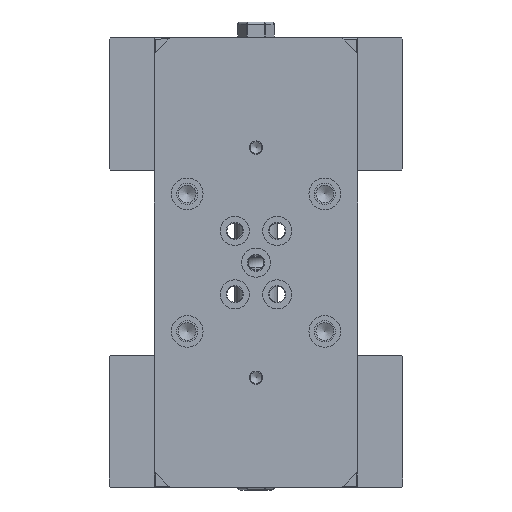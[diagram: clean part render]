
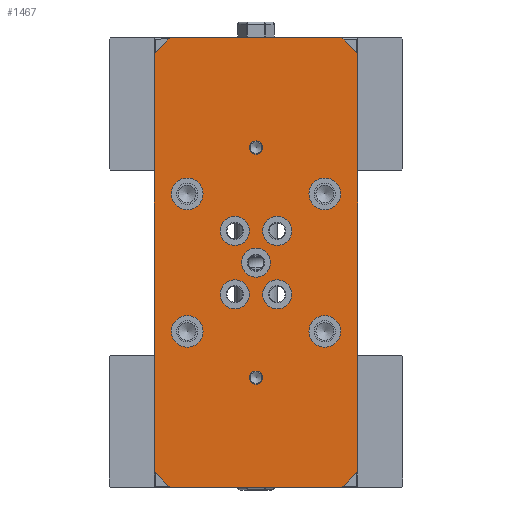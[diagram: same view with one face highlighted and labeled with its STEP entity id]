
A CAD part, front view. The second image highlights one B-rep face of the part: STEP entity #1467.
In plain terms, the highlighted planar face has unit normal (0, -1, 0).
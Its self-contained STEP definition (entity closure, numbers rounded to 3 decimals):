
#1467=ADVANCED_FACE('',(#4625,#4626,#4627,#4628,#4629,#4630,#4631,#4632,
#4633,#4634,#4635,#4636),#1966,.F.);
#1966=PLANE('',#12396);
#2924=LINE('',#21679,#4012);
#2925=LINE('',#21682,#4013);
#2926=LINE('',#21684,#4014);
#2927=LINE('',#21686,#4015);
#2928=LINE('',#21688,#4016);
#2929=LINE('',#21690,#4017);
#2930=LINE('',#21692,#4018);
#2931=LINE('',#21694,#4019);
#4012=VECTOR('',#14925,1.);
#4013=VECTOR('',#14926,1.);
#4014=VECTOR('',#14927,1.);
#4015=VECTOR('',#14928,1.);
#4016=VECTOR('',#14929,1.);
#4017=VECTOR('',#14930,1.);
#4018=VECTOR('',#14931,1.);
#4019=VECTOR('',#14932,1.);
#4625=FACE_BOUND('',#5404,.T.);
#4626=FACE_BOUND('',#5405,.T.);
#4627=FACE_BOUND('',#5406,.T.);
#4628=FACE_BOUND('',#5407,.T.);
#4629=FACE_BOUND('',#5408,.T.);
#4630=FACE_BOUND('',#5409,.T.);
#4631=FACE_BOUND('',#5410,.T.);
#4632=FACE_BOUND('',#5411,.T.);
#4633=FACE_BOUND('',#5412,.T.);
#4634=FACE_BOUND('',#5413,.T.);
#4635=FACE_BOUND('',#5414,.T.);
#4636=FACE_BOUND('',#5415,.T.);
#5404=EDGE_LOOP('',(#7828));
#5405=EDGE_LOOP('',(#7829));
#5406=EDGE_LOOP('',(#7830));
#5407=EDGE_LOOP('',(#7831));
#5408=EDGE_LOOP('',(#7832,#7833,#7834,#7835,#7836,#7837,#7838,#7839));
#5409=EDGE_LOOP('',(#7840));
#5410=EDGE_LOOP('',(#7841));
#5411=EDGE_LOOP('',(#7842));
#5412=EDGE_LOOP('',(#7843));
#5413=EDGE_LOOP('',(#7844));
#5414=EDGE_LOOP('',(#7845));
#5415=EDGE_LOOP('',(#7846));
#7828=ORIENTED_EDGE('',*,*,#10876,.F.);
#7829=ORIENTED_EDGE('',*,*,#10877,.T.);
#7830=ORIENTED_EDGE('',*,*,#10878,.F.);
#7831=ORIENTED_EDGE('',*,*,#10879,.T.);
#7832=ORIENTED_EDGE('',*,*,#10880,.F.);
#7833=ORIENTED_EDGE('',*,*,#10881,.T.);
#7834=ORIENTED_EDGE('',*,*,#10882,.F.);
#7835=ORIENTED_EDGE('',*,*,#10883,.T.);
#7836=ORIENTED_EDGE('',*,*,#10884,.T.);
#7837=ORIENTED_EDGE('',*,*,#10885,.T.);
#7838=ORIENTED_EDGE('',*,*,#10886,.T.);
#7839=ORIENTED_EDGE('',*,*,#10887,.T.);
#7840=ORIENTED_EDGE('',*,*,#10888,.T.);
#7841=ORIENTED_EDGE('',*,*,#10889,.F.);
#7842=ORIENTED_EDGE('',*,*,#10890,.T.);
#7843=ORIENTED_EDGE('',*,*,#10891,.F.);
#7844=ORIENTED_EDGE('',*,*,#10892,.T.);
#7845=ORIENTED_EDGE('',*,*,#10893,.T.);
#7846=ORIENTED_EDGE('',*,*,#10894,.F.);
#9471=VERTEX_POINT('',#21672);
#9472=VERTEX_POINT('',#21674);
#9473=VERTEX_POINT('',#21676);
#9474=VERTEX_POINT('',#21678);
#9475=VERTEX_POINT('',#21680);
#9476=VERTEX_POINT('',#21681);
#9477=VERTEX_POINT('',#21683);
#9478=VERTEX_POINT('',#21685);
#9479=VERTEX_POINT('',#21687);
#9480=VERTEX_POINT('',#21689);
#9481=VERTEX_POINT('',#21691);
#9482=VERTEX_POINT('',#21693);
#9483=VERTEX_POINT('',#21696);
#9484=VERTEX_POINT('',#21698);
#9485=VERTEX_POINT('',#21700);
#9486=VERTEX_POINT('',#21702);
#9487=VERTEX_POINT('',#21704);
#9488=VERTEX_POINT('',#21706);
#9489=VERTEX_POINT('',#21708);
#10876=EDGE_CURVE('',#9471,#9471,#11566,.T.);
#10877=EDGE_CURVE('',#9472,#9472,#11567,.T.);
#10878=EDGE_CURVE('',#9473,#9473,#11568,.T.);
#10879=EDGE_CURVE('',#9474,#9474,#11569,.T.);
#10880=EDGE_CURVE('',#9475,#9476,#2924,.T.);
#10881=EDGE_CURVE('',#9475,#9477,#2925,.T.);
#10882=EDGE_CURVE('',#9478,#9477,#2926,.T.);
#10883=EDGE_CURVE('',#9478,#9479,#2927,.T.);
#10884=EDGE_CURVE('',#9479,#9480,#2928,.T.);
#10885=EDGE_CURVE('',#9480,#9481,#2929,.T.);
#10886=EDGE_CURVE('',#9481,#9482,#2930,.T.);
#10887=EDGE_CURVE('',#9482,#9476,#2931,.T.);
#10888=EDGE_CURVE('',#9483,#9483,#11570,.T.);
#10889=EDGE_CURVE('',#9484,#9484,#11571,.T.);
#10890=EDGE_CURVE('',#9485,#9485,#11572,.T.);
#10891=EDGE_CURVE('',#9486,#9486,#11573,.T.);
#10892=EDGE_CURVE('',#9487,#9487,#11574,.T.);
#10893=EDGE_CURVE('',#9488,#9488,#11575,.T.);
#10894=EDGE_CURVE('',#9489,#9489,#11576,.T.);
#11566=CIRCLE('',#12385,6.);
#11567=CIRCLE('',#12386,5.5);
#11568=CIRCLE('',#12387,5.5);
#11569=CIRCLE('',#12388,5.5);
#11570=CIRCLE('',#12389,2.5);
#11571=CIRCLE('',#12390,2.5);
#11572=CIRCLE('',#12391,5.5);
#11573=CIRCLE('',#12392,5.5);
#11574=CIRCLE('',#12393,6.);
#11575=CIRCLE('',#12394,6.);
#11576=CIRCLE('',#12395,6.);
#12385=AXIS2_PLACEMENT_3D('',#21671,#14917,#14918);
#12386=AXIS2_PLACEMENT_3D('',#21673,#14919,#14920);
#12387=AXIS2_PLACEMENT_3D('',#21675,#14921,#14922);
#12388=AXIS2_PLACEMENT_3D('',#21677,#14923,#14924);
#12389=AXIS2_PLACEMENT_3D('',#21695,#14933,#14934);
#12390=AXIS2_PLACEMENT_3D('',#21697,#14935,#14936);
#12391=AXIS2_PLACEMENT_3D('',#21699,#14937,#14938);
#12392=AXIS2_PLACEMENT_3D('',#21701,#14939,#14940);
#12393=AXIS2_PLACEMENT_3D('',#21703,#14941,#14942);
#12394=AXIS2_PLACEMENT_3D('',#21705,#14943,#14944);
#12395=AXIS2_PLACEMENT_3D('',#21707,#14945,#14946);
#12396=AXIS2_PLACEMENT_3D('',#21709,#14947,#14948);
#14917=DIRECTION('',(0.,-1.,0.));
#14918=DIRECTION('',(0.,0.,1.));
#14919=DIRECTION('',(0.,1.,0.));
#14920=DIRECTION('',(0.,0.,-1.));
#14921=DIRECTION('',(0.,-1.,0.));
#14922=DIRECTION('',(0.,0.,1.));
#14923=DIRECTION('',(0.,1.,0.));
#14924=DIRECTION('',(0.,0.,1.));
#14925=DIRECTION('',(0.,0.,1.));
#14926=DIRECTION('',(0.707,0.,-0.707));
#14927=DIRECTION('',(-1.,0.,0.));
#14928=DIRECTION('',(0.707,0.,0.707));
#14929=DIRECTION('',(0.,0.,1.));
#14930=DIRECTION('',(-0.707,0.,0.707));
#14931=DIRECTION('',(-1.,0.,0.));
#14932=DIRECTION('',(-0.707,0.,-0.707));
#14933=DIRECTION('',(0.,1.,0.));
#14934=DIRECTION('',(0.,0.,1.));
#14935=DIRECTION('',(0.,-1.,0.));
#14936=DIRECTION('',(0.,0.,-1.));
#14937=DIRECTION('',(0.,1.,0.));
#14938=DIRECTION('',(0.,0.,1.));
#14939=DIRECTION('',(0.,-1.,0.));
#14940=DIRECTION('',(0.,0.,-1.));
#14941=DIRECTION('',(0.,1.,0.));
#14942=DIRECTION('',(0.,0.,1.));
#14943=DIRECTION('',(0.,1.,0.));
#14944=DIRECTION('',(0.,0.,1.));
#14945=DIRECTION('',(0.,-1.,0.));
#14946=DIRECTION('',(0.,0.,1.));
#14947=DIRECTION('',(0.,1.,0.));
#14948=DIRECTION('',(0.,0.,1.));
#21671=CARTESIAN_POINT('',(1568.052,691.636,109.));
#21672=CARTESIAN_POINT('',(1568.052,691.636,115.));
#21673=CARTESIAN_POINT('',(1602.052,691.636,147.));
#21674=CARTESIAN_POINT('',(1602.052,691.636,141.5));
#21675=CARTESIAN_POINT('',(1602.052,691.636,123.));
#21676=CARTESIAN_POINT('',(1602.052,691.636,128.5));
#21677=CARTESIAN_POINT('',(1594.052,691.636,135.));
#21678=CARTESIAN_POINT('',(1594.052,691.636,140.5));
#21679=CARTESIAN_POINT('',(1555.552,691.636,70.));
#21680=CARTESIAN_POINT('',(1555.552,691.636,56.));
#21681=CARTESIAN_POINT('',(1555.552,691.636,214.));
#21682=CARTESIAN_POINT('',(1561.552,691.636,50.));
#21683=CARTESIAN_POINT('',(1561.552,691.636,50.));
#21684=CARTESIAN_POINT('',(1632.552,691.636,50.));
#21685=CARTESIAN_POINT('',(1626.552,691.636,50.));
#21686=CARTESIAN_POINT('',(1626.552,691.636,50.));
#21687=CARTESIAN_POINT('',(1632.552,691.636,56.));
#21688=CARTESIAN_POINT('',(1632.552,691.636,70.));
#21689=CARTESIAN_POINT('',(1632.552,691.636,214.));
#21690=CARTESIAN_POINT('',(1632.552,691.636,214.));
#21691=CARTESIAN_POINT('',(1626.552,691.636,220.));
#21692=CARTESIAN_POINT('',(1632.552,691.636,220.));
#21693=CARTESIAN_POINT('',(1561.552,691.636,220.));
#21694=CARTESIAN_POINT('',(1555.552,691.636,214.));
#21695=CARTESIAN_POINT('',(1594.052,691.636,178.5));
#21696=CARTESIAN_POINT('',(1594.052,691.636,181.));
#21697=CARTESIAN_POINT('',(1594.052,691.636,91.5));
#21698=CARTESIAN_POINT('',(1594.052,691.636,89.));
#21699=CARTESIAN_POINT('',(1586.052,691.636,123.));
#21700=CARTESIAN_POINT('',(1586.052,691.636,128.5));
#21701=CARTESIAN_POINT('',(1586.052,691.636,147.));
#21702=CARTESIAN_POINT('',(1586.052,691.636,141.5));
#21703=CARTESIAN_POINT('',(1620.052,691.636,109.));
#21704=CARTESIAN_POINT('',(1620.052,691.636,115.));
#21705=CARTESIAN_POINT('',(1620.052,691.636,161.));
#21706=CARTESIAN_POINT('',(1620.052,691.636,167.));
#21707=CARTESIAN_POINT('',(1568.052,691.636,161.));
#21708=CARTESIAN_POINT('',(1568.052,691.636,167.));
#21709=CARTESIAN_POINT('',(1632.552,691.636,70.));
